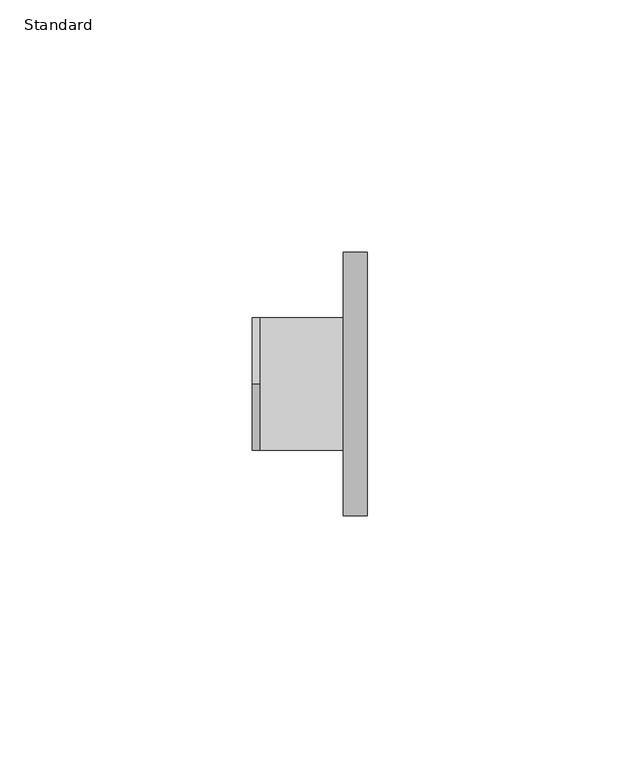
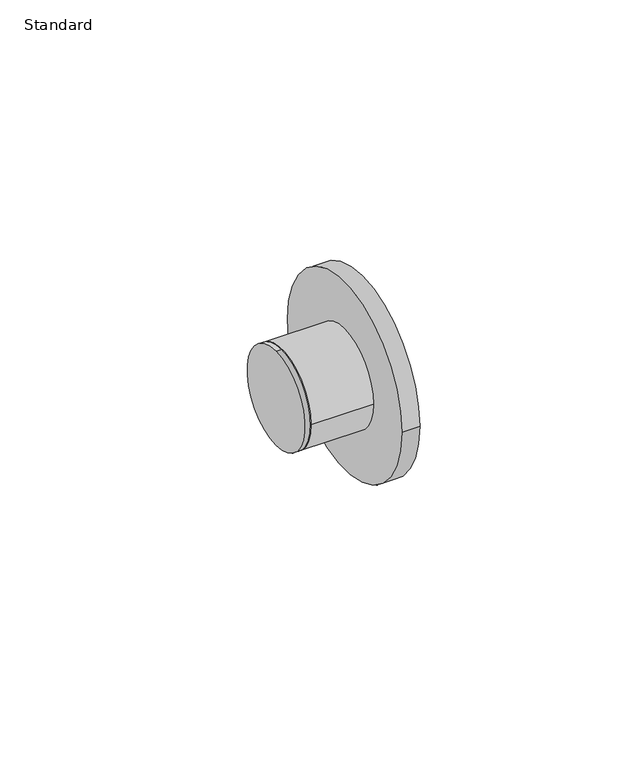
"""IFC4 building model written with IfcOpenShell, lengths in millimetres: pipe fitting geometry, Reducion Bushing_Lubrizol_CPVC_FlowGuard_MX : Standard."""

from ifc_helpers import new_model, si_unit, point, frame, origin, origin_2d, place, context, project, spatial, circle_curve, trimmed, segment, composite_curve, outline, extrude, source, transform, mapped, element, save


def standard_0a9851e4(model_context):
    return source(origin(), model_context, "Body", "SweptSolid", [
        extrude(outline(composite_curve([segment(trimmed(circle_curve(origin_2d(), 13.11), [point((-13.11, 0.0))], [point((13.11, 0.0))], False, "CARTESIAN"), True, "CONTINUOUS"), segment(trimmed(circle_curve(origin_2d(), 13.11), [point((13.11, 0.0))], [point((-13.11, 0.0))], False, "CARTESIAN"), True, "CONTINUOUS")], self_intersect=False)), frame((1.625, 0.0, 0.0), z_axis=(1.0, 0.0, 0.0), x_axis=(0.0, 1.0, 0.0)), (0.0, 0.0, 1.0), 16.438),
        extrude(outline(composite_curve([segment(trimmed(circle_curve(origin_2d(), 26.11), [point((-26.11, 0.0))], [point((26.11, 0.0))], False, "CARTESIAN"), True, "CONTINUOUS"), segment(trimmed(circle_curve(origin_2d(), 26.11), [point((26.11, 0.0))], [point((-26.11, 0.0))], False, "CARTESIAN"), True, "CONTINUOUS")], self_intersect=False)), frame((18.063, 0.0, 0.0), z_axis=(1.0, 0.0, 0.0), x_axis=(0.0, 1.0, 0.0)), (0.0, 0.0, 1.0), 4.75),
        extrude(outline(composite_curve([segment(trimmed(circle_curve(origin_2d(), 13.11), [point((0.0, 13.11))], [point((0.0, -13.11))], False, "CARTESIAN"), True, "CONTINUOUS"), segment(trimmed(circle_curve(origin_2d(), 13.11), [point((0.0, -13.11))], [point((0.0, 13.11))], False, "CARTESIAN"), True, "CONTINUOUS")], self_intersect=False)), frame((0.0, 0.0, 0.0), z_axis=(1.0, 0.0, 0.0), x_axis=(0.0, 1.0, 0.0)), (0.0, 0.0, 1.0), 1.625),
    ])


if __name__ == "__main__":
    model = new_model("IFC4")
    model_context = context("Model", 3, world=origin())
    ifc_project = project(units=[si_unit("LENGTHUNIT", "METRE", prefix="MILLI")], contexts=[model_context])
    site = spatial("IfcSite", under=ifc_project)
    building = spatial("IfcBuilding", under=site)
    placement = place(None, origin())
    standard_shape = standard_0a9851e4(model_context)
    element("IfcPipeFitting", 1, ObjectType="Reducion Bushing_Lubrizol_CPVC_FlowGuard_MX : Standard", at=placement, inside=building, context=model_context, shape_type="MappedRepresentation", body=[
        mapped(standard_shape, transform((0.0, 0.0, 0.0), x_axis=(1.0, 0.0, 0.0), y_axis=(0.0, 1.0, 0.0), z_axis=(0.0, 0.0, 1.0))),
    ])
    save(model, "model.ifc")
